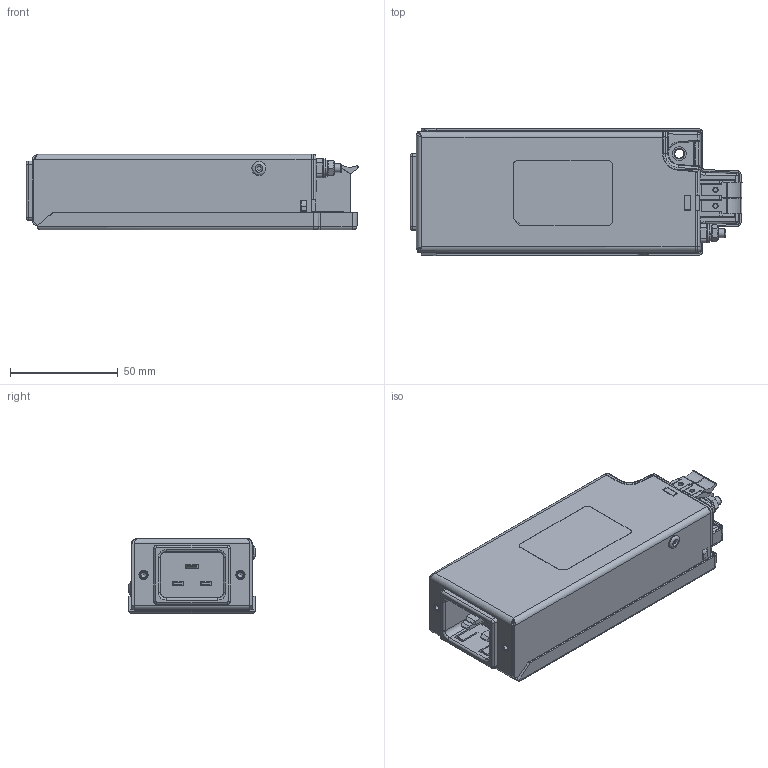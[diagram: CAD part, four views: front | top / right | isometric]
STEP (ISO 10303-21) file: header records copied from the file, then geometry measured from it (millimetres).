
FILE_DESCRIPTION(/* description */ (''),/* implementation_level */ '2;1');
FILE_NAME(/* name */ 'C:\Users\Christian.Ackermann\OneDrive - Schaffner EMV AG\Desktop\UMA_customerSTEP\FN264x-16_20-103.stp',/* time_stamp */ '2021-08-24T10:58:27+02:00',/* author */ ('Christian.Ackermann'),/* organization */ (''),/* preprocessor_version */ 'ST-DEVELOPER v18.1',/* originating_system */ 'Autodesk Inventor 2020',/* authorisation */ '');
FILE_SCHEMA (('AUTOMOTIVE_DESIGN { 1 0 10303 214 3 1 1 }'));
Length unit declared in the file: millimetre
Products named in the file (1): FN264x-16_20-103
Bounding box: 154.11 x 59 x 35.06 mm (x, y, z)
Volume: 249613 mm3; surface area: 49712.1 mm2
Topology: 3 solids, 3 shells, 1345 faces, 3490 edges, 2161 vertices
Faces by surface type: plane 675, cylinder 412, bspline 168, cone 35, torus 30, sphere 25
Full cylindrical faces by diameter (mm): 0.8 x12, 2 x4, 2.2 x1, 2.459 x2, 2.8 x1, 4 x2, 4.2 x1, 4.25 x2, 4.3 x1, 6.111 x1, 6.4 x2, 6.5 x2, 8.39 x2, 8.74 x3, 9 x1
Entity records: 46306 total; most frequent: CARTESIAN_POINT 11975, ORIENTED_EDGE 6946, DIRECTION 6756, EDGE_CURVE 3473, AXIS2_PLACEMENT_3D 2288, LINE 2180, VECTOR 2180, VERTEX_POINT 2161
